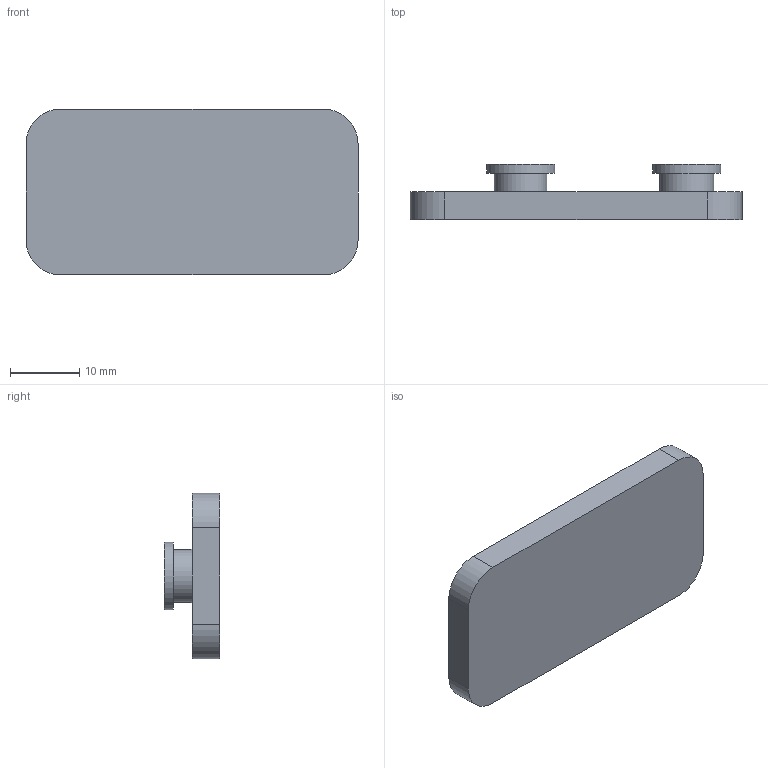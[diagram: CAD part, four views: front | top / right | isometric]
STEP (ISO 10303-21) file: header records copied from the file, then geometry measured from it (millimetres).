
FILE_DESCRIPTION(/* description */ ('STEP AP242 Edition 2','CAx-IF Rec.Pracs.---Representation and Presentation of Product Manufacturing Information (PMI)---4.0---2014-10-13','CAx-IF Rec.Pracs.---3D Tessellated Geometry---0.4---2014-09-14','2;1','CAx-IF Rec.Pracs.---User Defined Attributes---1.5---2016-08-15'),/* implementation_level */ '2;1');
FILE_NAME(/* name */ 'bb_v3 - quick connect-base',/* time_stamp */ '2026-05-01T07:59:50Z',/* author */ (''),/* organization */ (''),/* preprocessor_version */ 'ST-DEVELOPER v20',/* originating_system */ 'ONSHAPE BY PTC INC, 1.214',/* authorisation */ ' ');
FILE_SCHEMA (('AP242_MANAGED_MODEL_BASED_3D_ENGINEERING_MIM_LF { 1 0 10303 442 3 1 4 }'));
Length unit declared in the file: metre
Products named in the file (1): quick connect-base
Bounding box: 48 x 8 x 24 mm (x, y, z)
Volume: 4969.8 mm3; surface area: 3128.8 mm2
Topology: 1 solids, 1 shells, 18 faces, 36 edges, 24 vertices
Faces by surface type: plane 10, cylinder 8
Full cylindrical faces by diameter (mm): 7.6 x1, 7.8 x1, 9.8 x2
Entity records: 478 total; most frequent: DIRECTION 86, CARTESIAN_POINT 75, ORIENTED_EDGE 64, AXIS2_PLACEMENT_3D 35, EDGE_CURVE 32, EDGE_LOOP 26, FACE_BOUND 26, VERTEX_POINT 24
